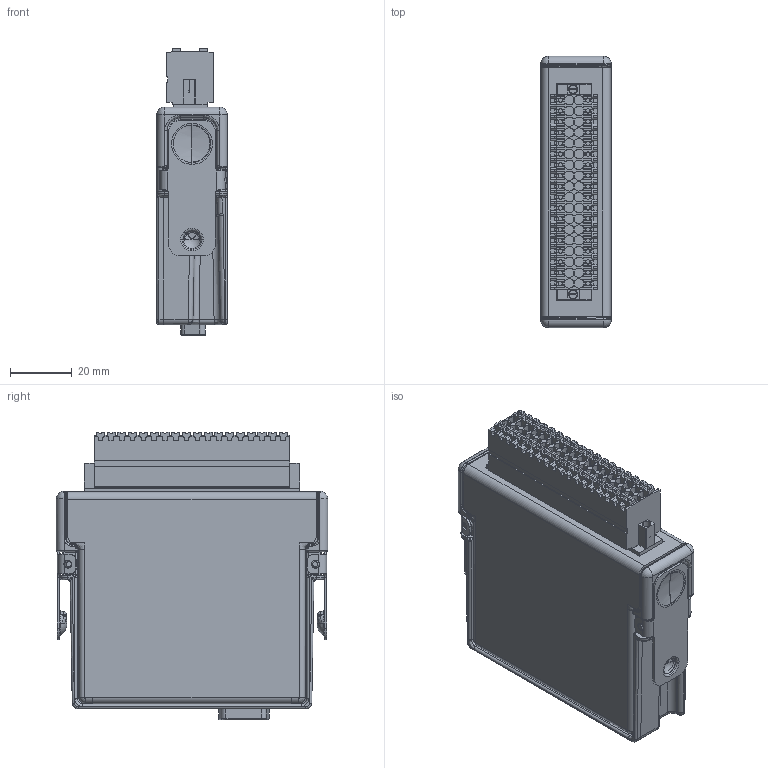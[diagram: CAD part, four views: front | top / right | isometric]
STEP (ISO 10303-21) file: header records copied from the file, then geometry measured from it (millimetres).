
FILE_DESCRIPTION((''),'2;1');
FILE_NAME('CART_CRIO_36PIN_SPRNG_TRM_PLUG_ASM','2017-02-06T',('dkendric'),(''),'CREO PARAMETRIC BY PTC INC, 2015380','CREO PARAMETRIC BY PTC INC, 2015380','');
FILE_SCHEMA(('CONFIG_CONTROL_DESIGN'));
Length unit declared in the file: inch
Products named in the file (11): ENCLOSURE_CART_UDAQ_REV6; LATCH_REV6_CRIO; ENCLOSURE_CART_UDAQ_REV6_ASM; COVER_CART_CRIO_WIDEMULLER; COVER_CART_CRIO_WIDEMULLER_ASM; CONN_HDR_RTANG_36-POS_WEID; CONN_15PIN_MINI_DSUB_OBS; CCA-C-SERIES-9425-36ST_ASM; FLH_PHIL_440X0250_NYLPATCH_SS; 1278030000; CART_CRIO_36PIN_SPRNG_TRM_PLUG_ASM
Assembly tree (12 placements, depth 3):
  CART_CRIO_36PIN_SPRNG_TRM_PLUG_ASM
    ENCLOSURE_CART_UDAQ_REV6_ASM
      ENCLOSURE_CART_UDAQ_REV6
      LATCH_REV6_CRIO  x2
    COVER_CART_CRIO_WIDEMULLER_ASM
      COVER_CART_CRIO_WIDEMULLER
    CCA-C-SERIES-9425-36ST_ASM
      CONN_HDR_RTANG_36-POS_WEID
      CONN_15PIN_MINI_DSUB_OBS
    FLH_PHIL_440X0250_NYLPATCH_SS  x2
    1278030000
Bounding box: 22.86 x 88.11 x 93.36 mm (x, y, z)
Volume: 63063.4 mm3; surface area: 64414.9 mm2
Topology: 19 solids, 37 shells, 4171 faces, 10742 edges, 6744 vertices
Faces by surface type: plane 2303, cylinder 992, bspline 555, cone 204, torus 64, sphere 47, extrusion 6
Entity records: 141335 total; most frequent: CARTESIAN_POINT 46159, ORIENTED_EDGE 20448, DIRECTION 18529, EDGE_CURVE 10252, VECTOR 6703, LINE 6700, VERTEX_POINT 6521, AXIS2_PLACEMENT_3D 5913
